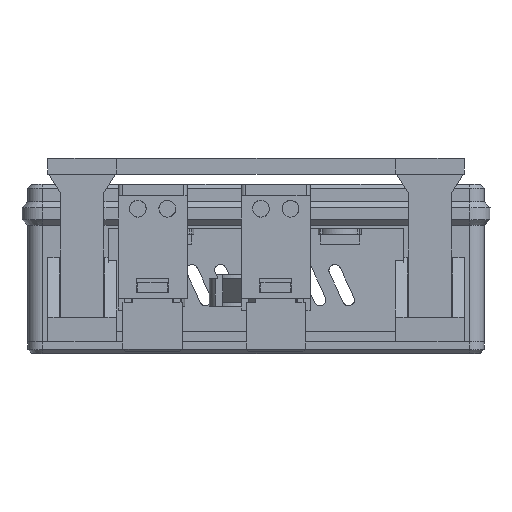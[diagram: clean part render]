
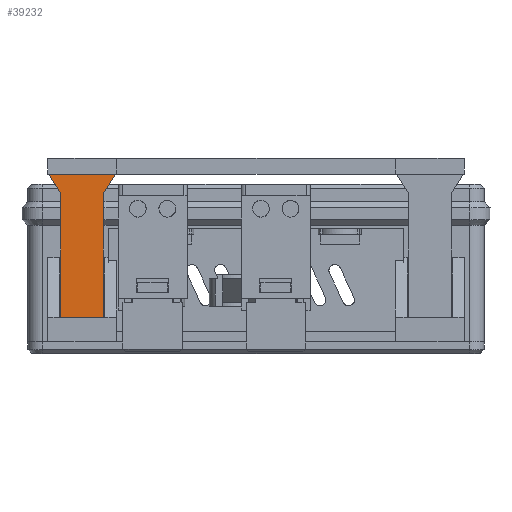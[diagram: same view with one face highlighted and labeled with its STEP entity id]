
A CAD part, left-side view. The second image highlights one B-rep face of the part: STEP entity #39232.
In plain terms, the highlighted planar face has unit normal (-1, 0, 0).
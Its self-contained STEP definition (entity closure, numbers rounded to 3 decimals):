
#37092 = PLANE('',#37093);
#37093 = AXIS2_PLACEMENT_3D('',#37094,#37095,#37096);
#37094 = CARTESIAN_POINT('',(-57.05,42.3,40.));
#37095 = DIRECTION('',(0.,0.,-1.));
#37096 = DIRECTION('',(1.,0.,0.));
#37538 = EDGE_CURVE('',#37539,#37541,#37543,.T.);
#37539 = VERTEX_POINT('',#37540);
#37540 = CARTESIAN_POINT('',(-47.05,42.069,40.));
#37541 = VERTEX_POINT('',#37542);
#37542 = CARTESIAN_POINT('',(-47.05,28.531,40.));
#37543 = SURFACE_CURVE('',#37544,(#37548,#37555),.PCURVE_S1.);
#37544 = LINE('',#37545,#37546);
#37545 = CARTESIAN_POINT('',(-47.05,42.069,40.));
#37546 = VECTOR('',#37547,1.);
#37547 = DIRECTION('',(0.,-1.,0.));
#37548 = PCURVE('',#37092,#37549);
#37549 = DEFINITIONAL_REPRESENTATION('',(#37550),#37554);
#37550 = LINE('',#37551,#37552);
#37551 = CARTESIAN_POINT('',(10.,0.231));
#37552 = VECTOR('',#37553,1.);
#37553 = DIRECTION('',(0.,1.));
#37554 = ( GEOMETRIC_REPRESENTATION_CONTEXT(2) 
PARAMETRIC_REPRESENTATION_CONTEXT() REPRESENTATION_CONTEXT('2D SPACE',''
  ) );
#37555 = PCURVE('',#37556,#37561);
#37556 = PLANE('',#37557);
#37557 = AXIS2_PLACEMENT_3D('',#37558,#37559,#37560);
#37558 = CARTESIAN_POINT('',(-47.05,42.069,11.));
#37559 = DIRECTION('',(-1.,0.,0.));
#37560 = DIRECTION('',(0.,-1.,0.));
#37561 = DEFINITIONAL_REPRESENTATION('',(#37562),#37566);
#37562 = LINE('',#37563,#37564);
#37563 = CARTESIAN_POINT('',(0.,29.));
#37564 = VECTOR('',#37565,1.);
#37565 = DIRECTION('',(1.,0.));
#37566 = ( GEOMETRIC_REPRESENTATION_CONTEXT(2) 
PARAMETRIC_REPRESENTATION_CONTEXT() REPRESENTATION_CONTEXT('2D SPACE',''
  ) );
#37584 = PLANE('',#37585);
#37585 = AXIS2_PLACEMENT_3D('',#37586,#37587,#37588);
#37586 = CARTESIAN_POINT('',(-47.05,31.,36.));
#37587 = DIRECTION('',(0.,-0.851,-0.525));
#37588 = DIRECTION('',(1.,0.,0.));
#37638 = PLANE('',#37639);
#37639 = AXIS2_PLACEMENT_3D('',#37640,#37641,#37642);
#37640 = CARTESIAN_POINT('',(-36.85,39.6,36.));
#37641 = DIRECTION('',(0.,0.851,-0.525));
#37642 = DIRECTION('',(-1.,0.,0.));
#39028 = PLANE('',#39029);
#39029 = AXIS2_PLACEMENT_3D('',#39030,#39031,#39032);
#39030 = CARTESIAN_POINT('',(-47.05,39.6,11.));
#39031 = DIRECTION('',(0.,0.,-1.));
#39032 = DIRECTION('',(1.,0.,0.));
#39048 = VERTEX_POINT('',#39049);
#39049 = CARTESIAN_POINT('',(-47.05,31.,11.));
#39063 = PLANE('',#39064);
#39064 = AXIS2_PLACEMENT_3D('',#39065,#39066,#39067);
#39065 = CARTESIAN_POINT('',(-47.05,31.,11.));
#39066 = DIRECTION('',(0.,-1.,0.));
#39067 = DIRECTION('',(1.,0.,0.));
#39075 = EDGE_CURVE('',#39048,#39076,#39078,.T.);
#39076 = VERTEX_POINT('',#39077);
#39077 = CARTESIAN_POINT('',(-47.05,39.6,11.));
#39078 = SURFACE_CURVE('',#39079,(#39083,#39090),.PCURVE_S1.);
#39079 = LINE('',#39080,#39081);
#39080 = CARTESIAN_POINT('',(-47.05,31.,11.));
#39081 = VECTOR('',#39082,1.);
#39082 = DIRECTION('',(0.,1.,0.));
#39083 = PCURVE('',#39028,#39084);
#39084 = DEFINITIONAL_REPRESENTATION('',(#39085),#39089);
#39085 = LINE('',#39086,#39087);
#39086 = CARTESIAN_POINT('',(0.,8.6));
#39087 = VECTOR('',#39088,1.);
#39088 = DIRECTION('',(0.,-1.));
#39089 = ( GEOMETRIC_REPRESENTATION_CONTEXT(2) 
PARAMETRIC_REPRESENTATION_CONTEXT() REPRESENTATION_CONTEXT('2D SPACE',''
  ) );
#39090 = PCURVE('',#37556,#39091);
#39091 = DEFINITIONAL_REPRESENTATION('',(#39092),#39096);
#39092 = LINE('',#39093,#39094);
#39093 = CARTESIAN_POINT('',(11.069,0.));
#39094 = VECTOR('',#39095,1.);
#39095 = DIRECTION('',(-1.,0.));
#39096 = ( GEOMETRIC_REPRESENTATION_CONTEXT(2) 
PARAMETRIC_REPRESENTATION_CONTEXT() REPRESENTATION_CONTEXT('2D SPACE',''
  ) );
#39112 = PLANE('',#39113);
#39113 = AXIS2_PLACEMENT_3D('',#39114,#39115,#39116);
#39114 = CARTESIAN_POINT('',(-36.85,39.6,11.));
#39115 = DIRECTION('',(0.,1.,-0.));
#39116 = DIRECTION('',(-1.,0.,0.));
#39232 = ADVANCED_FACE('',(#39233),#37556,.T.);
#39233 = FACE_BOUND('',#39234,.T.);
#39234 = EDGE_LOOP('',(#39235,#39258,#39279,#39280,#39303,#39324));
#39235 = ORIENTED_EDGE('',*,*,#39236,.T.);
#39236 = EDGE_CURVE('',#37539,#39237,#39239,.T.);
#39237 = VERTEX_POINT('',#39238);
#39238 = CARTESIAN_POINT('',(-47.05,39.6,36.));
#39239 = SURFACE_CURVE('',#39240,(#39244,#39251),.PCURVE_S1.);
#39240 = LINE('',#39241,#39242);
#39241 = CARTESIAN_POINT('',(-47.05,42.069,40.));
#39242 = VECTOR('',#39243,1.);
#39243 = DIRECTION('',(0.,-0.525,-0.851
    ));
#39244 = PCURVE('',#37556,#39245);
#39245 = DEFINITIONAL_REPRESENTATION('',(#39246),#39250);
#39246 = LINE('',#39247,#39248);
#39247 = CARTESIAN_POINT('',(0.,29.));
#39248 = VECTOR('',#39249,1.);
#39249 = DIRECTION('',(0.525,-0.851));
#39250 = ( GEOMETRIC_REPRESENTATION_CONTEXT(2) 
PARAMETRIC_REPRESENTATION_CONTEXT() REPRESENTATION_CONTEXT('2D SPACE',''
  ) );
#39251 = PCURVE('',#37638,#39252);
#39252 = DEFINITIONAL_REPRESENTATION('',(#39253),#39257);
#39253 = LINE('',#39254,#39255);
#39254 = CARTESIAN_POINT('',(10.2,4.701));
#39255 = VECTOR('',#39256,1.);
#39256 = DIRECTION('',(0.,-1.));
#39257 = ( GEOMETRIC_REPRESENTATION_CONTEXT(2) 
PARAMETRIC_REPRESENTATION_CONTEXT() REPRESENTATION_CONTEXT('2D SPACE',''
  ) );
#39258 = ORIENTED_EDGE('',*,*,#39259,.F.);
#39259 = EDGE_CURVE('',#39076,#39237,#39260,.T.);
#39260 = SURFACE_CURVE('',#39261,(#39265,#39272),.PCURVE_S1.);
#39261 = LINE('',#39262,#39263);
#39262 = CARTESIAN_POINT('',(-47.05,39.6,11.));
#39263 = VECTOR('',#39264,1.);
#39264 = DIRECTION('',(0.,0.,1.));
#39265 = PCURVE('',#37556,#39266);
#39266 = DEFINITIONAL_REPRESENTATION('',(#39267),#39271);
#39267 = LINE('',#39268,#39269);
#39268 = CARTESIAN_POINT('',(2.469,0.));
#39269 = VECTOR('',#39270,1.);
#39270 = DIRECTION('',(0.,1.));
#39271 = ( GEOMETRIC_REPRESENTATION_CONTEXT(2) 
PARAMETRIC_REPRESENTATION_CONTEXT() REPRESENTATION_CONTEXT('2D SPACE',''
  ) );
#39272 = PCURVE('',#39112,#39273);
#39273 = DEFINITIONAL_REPRESENTATION('',(#39274),#39278);
#39274 = LINE('',#39275,#39276);
#39275 = CARTESIAN_POINT('',(10.2,0.));
#39276 = VECTOR('',#39277,1.);
#39277 = DIRECTION('',(0.,1.));
#39278 = ( GEOMETRIC_REPRESENTATION_CONTEXT(2) 
PARAMETRIC_REPRESENTATION_CONTEXT() REPRESENTATION_CONTEXT('2D SPACE',''
  ) );
#39279 = ORIENTED_EDGE('',*,*,#39075,.F.);
#39280 = ORIENTED_EDGE('',*,*,#39281,.T.);
#39281 = EDGE_CURVE('',#39048,#39282,#39284,.T.);
#39282 = VERTEX_POINT('',#39283);
#39283 = CARTESIAN_POINT('',(-47.05,31.,36.));
#39284 = SURFACE_CURVE('',#39285,(#39289,#39296),.PCURVE_S1.);
#39285 = LINE('',#39286,#39287);
#39286 = CARTESIAN_POINT('',(-47.05,31.,11.));
#39287 = VECTOR('',#39288,1.);
#39288 = DIRECTION('',(0.,0.,1.));
#39289 = PCURVE('',#37556,#39290);
#39290 = DEFINITIONAL_REPRESENTATION('',(#39291),#39295);
#39291 = LINE('',#39292,#39293);
#39292 = CARTESIAN_POINT('',(11.069,0.));
#39293 = VECTOR('',#39294,1.);
#39294 = DIRECTION('',(0.,1.));
#39295 = ( GEOMETRIC_REPRESENTATION_CONTEXT(2) 
PARAMETRIC_REPRESENTATION_CONTEXT() REPRESENTATION_CONTEXT('2D SPACE',''
  ) );
#39296 = PCURVE('',#39063,#39297);
#39297 = DEFINITIONAL_REPRESENTATION('',(#39298),#39302);
#39298 = LINE('',#39299,#39300);
#39299 = CARTESIAN_POINT('',(0.,0.));
#39300 = VECTOR('',#39301,1.);
#39301 = DIRECTION('',(0.,1.));
#39302 = ( GEOMETRIC_REPRESENTATION_CONTEXT(2) 
PARAMETRIC_REPRESENTATION_CONTEXT() REPRESENTATION_CONTEXT('2D SPACE',''
  ) );
#39303 = ORIENTED_EDGE('',*,*,#39304,.F.);
#39304 = EDGE_CURVE('',#37541,#39282,#39305,.T.);
#39305 = SURFACE_CURVE('',#39306,(#39310,#39317),.PCURVE_S1.);
#39306 = LINE('',#39307,#39308);
#39307 = CARTESIAN_POINT('',(-47.05,28.531,40.));
#39308 = VECTOR('',#39309,1.);
#39309 = DIRECTION('',(0.,0.525,-0.851)
  );
#39310 = PCURVE('',#37556,#39311);
#39311 = DEFINITIONAL_REPRESENTATION('',(#39312),#39316);
#39312 = LINE('',#39313,#39314);
#39313 = CARTESIAN_POINT('',(13.538,29.));
#39314 = VECTOR('',#39315,1.);
#39315 = DIRECTION('',(-0.525,-0.851));
#39316 = ( GEOMETRIC_REPRESENTATION_CONTEXT(2) 
PARAMETRIC_REPRESENTATION_CONTEXT() REPRESENTATION_CONTEXT('2D SPACE',''
  ) );
#39317 = PCURVE('',#37584,#39318);
#39318 = DEFINITIONAL_REPRESENTATION('',(#39319),#39323);
#39319 = LINE('',#39320,#39321);
#39320 = CARTESIAN_POINT('',(0.,4.701));
#39321 = VECTOR('',#39322,1.);
#39322 = DIRECTION('',(0.,-1.));
#39323 = ( GEOMETRIC_REPRESENTATION_CONTEXT(2) 
PARAMETRIC_REPRESENTATION_CONTEXT() REPRESENTATION_CONTEXT('2D SPACE',''
  ) );
#39324 = ORIENTED_EDGE('',*,*,#37538,.F.);
